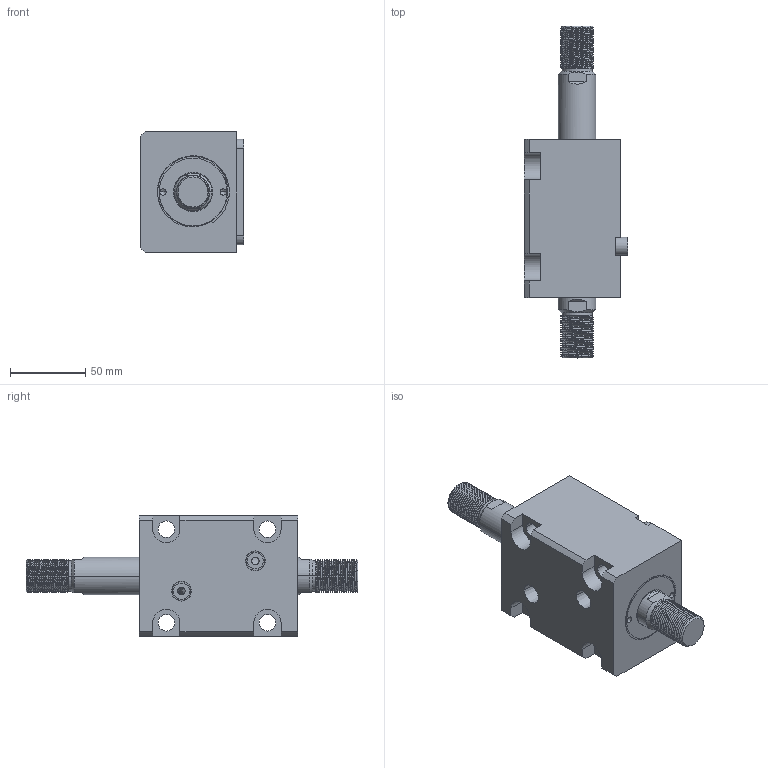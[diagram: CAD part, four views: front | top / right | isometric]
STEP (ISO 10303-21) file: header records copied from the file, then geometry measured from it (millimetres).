
FILE_DESCRIPTION (( 'STEP AP214' ), '1' );
FILE_NAME ('chtb-lw40x35w_asm.STEP', '2018-06-04T07:07:53', ( 'Windows' ), ( 'Microsoft' ), 'SwSTEP 2.0', 'SolidWorks 2015', '' );
FILE_SCHEMA (( 'AUTOMOTIVE_DESIGN' ));
Length unit declared in the file: millimetre
Products named in the file (5): CHTB-SW40X35NHSG; CHTB-SD40QG; CHTB-LW40X35NBT; CHTB-LA40PJ; chtb-lw40x35w_asm
Assembly tree (4 placements, depth 2):
  chtb-lw40x35w_asm
    CHTB-LA40PJ
    CHTB-LW40X35NBT
    CHTB-SD40QG
    CHTB-SW40X35NHSG
Bounding box: 68.5 x 220 x 80 mm (x, y, z)
Volume: 522732.1 mm3; surface area: 97028.1 mm2
Topology: 4 solids, 4 shells, 258 faces, 711 edges, 473 vertices
Faces by surface type: cylinder 152, plane 59, bspline 18, cone 17, torus 12
Entity records: 17539 total; most frequent: CARTESIAN_POINT 11292, ORIENTED_EDGE 1410, DIRECTION 1124, EDGE_CURVE 705, VERTEX_POINT 473, AXIS2_PLACEMENT_3D 433, EDGE_LOOP 292, LINE 258
